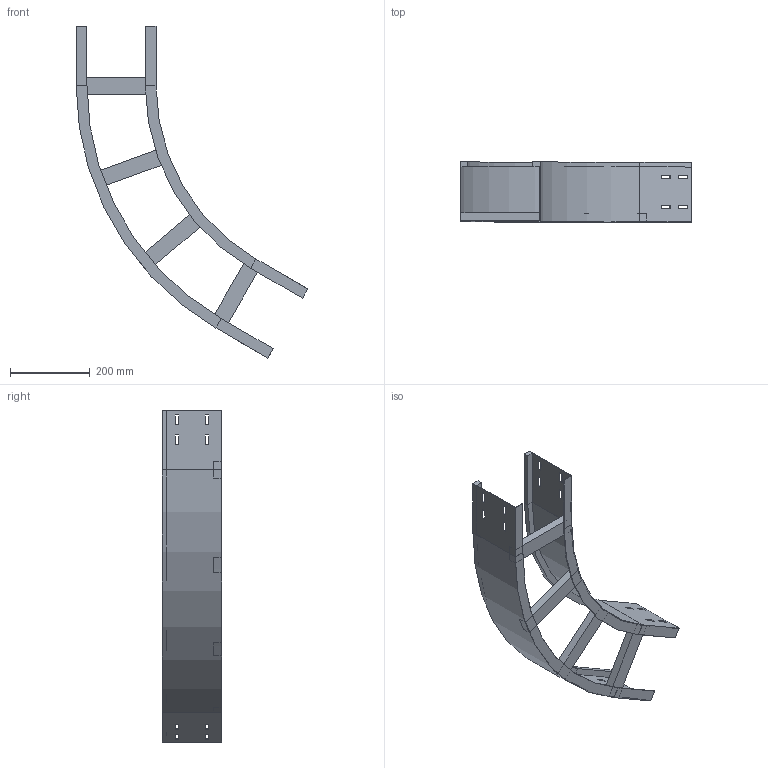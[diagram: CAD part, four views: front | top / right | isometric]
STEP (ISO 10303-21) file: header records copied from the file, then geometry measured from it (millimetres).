
FILE_DESCRIPTION (( 'STEP AP214' ), '1' );
FILE_NAME ('13J5F200.step', '2025-02-21T16:24:34', ( '' ), ( '' ), 'SwSTEP 2.0', 'SolidWorks 2023', '' );
FILE_SCHEMA (( 'AUTOMOTIVE_DESIGN' ));
Length unit declared in the file: millimetre
Products named in the file (4): TRAVERSINO_200; LONGH.INTERNO 60°_H150_R500; LONGH.ESTERNO 60°_H150_R500+200; 13J5F200
Assembly tree (6 placements, depth 2):
  13J5F200
    LONGH.INTERNO 60°_H150_R500
    LONGH.ESTERNO 60°_H150_R500+200
    TRAVERSINO_200  x4
Bounding box: 579.9 x 150 x 831.22 mm (x, y, z)
Volume: 1634137.3 mm3; surface area: 815149.9 mm2
Topology: 6 solids, 6 shells, 140 faces, 352 edges, 224 vertices
Faces by surface type: plane 132, cylinder 8
Entity records: 3829 total; most frequent: CARTESIAN_POINT 647, ORIENTED_EDGE 632, DIRECTION 594, EDGE_CURVE 316, LINE 300, VECTOR 300, VERTEX_POINT 200, EDGE_LOOP 154
